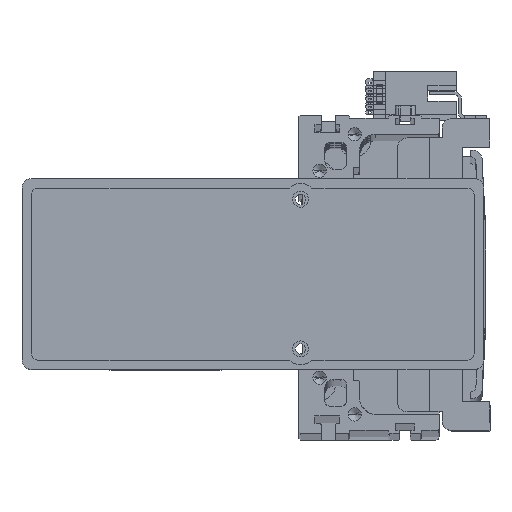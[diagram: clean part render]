
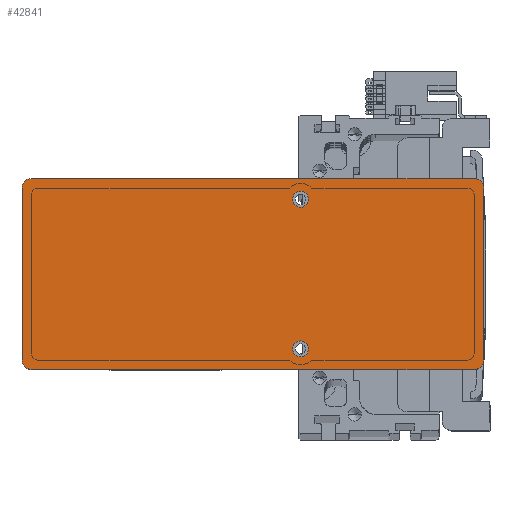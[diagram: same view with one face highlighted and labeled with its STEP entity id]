
A CAD part, top view. The second image highlights one B-rep face of the part: STEP entity #42841.
In plain terms, the highlighted planar face has unit normal (0, 0, 1) as drawn and (0, 0, -1) by its records, which use the part's own axes.
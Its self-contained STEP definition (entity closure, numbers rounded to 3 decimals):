
#13 = DIRECTION ( 'NONE',  ( 0., -1., 0. ) ) ;
#189 = EDGE_LOOP ( 'NONE', ( #24872, #10020 ) ) ;
#477 = EDGE_CURVE ( 'NONE', #45343, #3958, #6821, .T. ) ;
#751 = DIRECTION ( 'NONE',  ( 1., 0., 0. ) ) ;
#887 = ORIENTED_EDGE ( 'NONE', *, *, #34944, .F. ) ;
#923 = ORIENTED_EDGE ( 'NONE', *, *, #477, .F. ) ;
#1333 = ORIENTED_EDGE ( 'NONE', *, *, #42347, .T. ) ;
#1970 = AXIS2_PLACEMENT_3D ( 'NONE', #46356, #23648, #751 ) ;
#2892 = DIRECTION ( 'NONE',  ( 0., 0., 1. ) ) ;
#3448 = DIRECTION ( 'NONE',  ( 0., 0., -1. ) ) ;
#3457 = FACE_OUTER_BOUND ( 'NONE', #38429, .T. ) ;
#3958 = VERTEX_POINT ( 'NONE', #41152 ) ;
#4212 = AXIS2_PLACEMENT_3D ( 'NONE', #25742, #2892, #29574 ) ;
#4426 = CIRCLE ( 'NONE', #46226, 3. ) ;
#5643 = EDGE_CURVE ( 'NONE', #43824, #3958, #48834, .T. ) ;
#5980 = ORIENTED_EDGE ( 'NONE', *, *, #27168, .T. ) ;
#6030 = CARTESIAN_POINT ( 'NONE',  ( 69.5, -27., 0. ) ) ;
#6243 = CARTESIAN_POINT ( 'NONE',  ( 15., 23.5, 0. ) ) ;
#6821 = LINE ( 'NONE', #31599, #35960 ) ;
#6889 = EDGE_LOOP ( 'NONE', ( #19882, #887 ) ) ;
#7079 = DIRECTION ( 'NONE',  ( 0., 0., -1. ) ) ;
#7229 = DIRECTION ( 'NONE',  ( -1., 0., 0. ) ) ;
#7372 = CIRCLE ( 'NONE', #49309, 2.5 ) ;
#7458 = VERTEX_POINT ( 'NONE', #22961 ) ;
#7784 = CARTESIAN_POINT ( 'NONE',  ( 17.5, 23.5, 0. ) ) ;
#8562 = VERTEX_POINT ( 'NONE', #11419 ) ;
#9778 = CARTESIAN_POINT ( 'NONE',  ( 15., -23.5, 0. ) ) ;
#9932 = DIRECTION ( 'NONE',  ( 1., 0., 0. ) ) ;
#10020 = ORIENTED_EDGE ( 'NONE', *, *, #47422, .F. ) ;
#10136 = DIRECTION ( 'NONE',  ( -1., 0., 0. ) ) ;
#10147 = CIRCLE ( 'NONE', #40424, 2.5 ) ;
#11186 = VECTOR ( 'NONE', #13, 1000. ) ;
#11419 = CARTESIAN_POINT ( 'NONE',  ( 69.5, 30., 0. ) ) ;
#11616 = VECTOR ( 'NONE', #44430, 1000. ) ;
#11813 = ORIENTED_EDGE ( 'NONE', *, *, #22130, .F. ) ;
#12173 = CARTESIAN_POINT ( 'NONE',  ( -69.5, 30., 0. ) ) ;
#12818 = DIRECTION ( 'NONE',  ( 0., 0., -1. ) ) ;
#12848 = VERTEX_POINT ( 'NONE', #29405 ) ;
#13588 = CARTESIAN_POINT ( 'NONE',  ( 72.5, -27., 0. ) ) ;
#13602 = DIRECTION ( 'NONE',  ( -1., 0., 0. ) ) ;
#14068 = CARTESIAN_POINT ( 'NONE',  ( 72.5, -30., 0. ) ) ;
#14724 = VERTEX_POINT ( 'NONE', #12173 ) ;
#15569 = EDGE_CURVE ( 'NONE', #8562, #14724, #18879, .T. ) ;
#16334 = CARTESIAN_POINT ( 'NONE',  ( 15., -23.5, 0. ) ) ;
#16935 = AXIS2_PLACEMENT_3D ( 'NONE', #29865, #7079, #33664 ) ;
#17690 = VECTOR ( 'NONE', #7229, 1000. ) ;
#18035 = ORIENTED_EDGE ( 'NONE', *, *, #15569, .F. ) ;
#18879 = LINE ( 'NONE', #30010, #17690 ) ;
#19356 = CARTESIAN_POINT ( 'NONE',  ( -72.5, -27., 0. ) ) ;
#19879 = CARTESIAN_POINT ( 'NONE',  ( -69.5, -30., 0. ) ) ;
#19882 = ORIENTED_EDGE ( 'NONE', *, *, #31020, .F. ) ;
#20160 = DIRECTION ( 'NONE',  ( -1., 0., 0. ) ) ;
#20811 = AXIS2_PLACEMENT_3D ( 'NONE', #26278, #3448, #30108 ) ;
#20901 = CIRCLE ( 'NONE', #20811, 3. ) ;
#20938 = EDGE_CURVE ( 'NONE', #46207, #45638, #7372, .T. ) ;
#22130 = EDGE_CURVE ( 'NONE', #12848, #45673, #31357, .T. ) ;
#22961 = CARTESIAN_POINT ( 'NONE',  ( 12.5, 23.5, 0. ) ) ;
#23001 = CARTESIAN_POINT ( 'NONE',  ( 17.5, -23.5, 0. ) ) ;
#23648 = DIRECTION ( 'NONE',  ( 0., 0., -1. ) ) ;
#23742 = FACE_BOUND ( 'NONE', #189, .T. ) ;
#24139 = CARTESIAN_POINT ( 'NONE',  ( 12.5, -23.5, 0. ) ) ;
#24568 = VERTEX_POINT ( 'NONE', #30999 ) ;
#24872 = ORIENTED_EDGE ( 'NONE', *, *, #20938, .F. ) ;
#25742 = CARTESIAN_POINT ( 'NONE',  ( 0., 0., 0. ) ) ;
#25821 = EDGE_CURVE ( 'NONE', #8562, #24568, #4426, .T. ) ;
#26149 = VERTEX_POINT ( 'NONE', #7784 ) ;
#26278 = CARTESIAN_POINT ( 'NONE',  ( -69.5, -27., 0. ) ) ;
#27168 = EDGE_CURVE ( 'NONE', #12848, #14724, #44612, .T. ) ;
#27678 = AXIS2_PLACEMENT_3D ( 'NONE', #9778, #36309, #13602 ) ;
#28829 = DIRECTION ( 'NONE',  ( 1., 0., 0. ) ) ;
#29405 = CARTESIAN_POINT ( 'NONE',  ( -72.5, 27., 0. ) ) ;
#29574 = DIRECTION ( 'NONE',  ( 1., 0., 0. ) ) ;
#29865 = CARTESIAN_POINT ( 'NONE',  ( 15., 23.5, 0. ) ) ;
#30010 = CARTESIAN_POINT ( 'NONE',  ( 72.5, 30., 0. ) ) ;
#30108 = DIRECTION ( 'NONE',  ( 1., 0., 0. ) ) ;
#30999 = CARTESIAN_POINT ( 'NONE',  ( 72.5, 27., 0. ) ) ;
#31020 = EDGE_CURVE ( 'NONE', #7458, #26149, #45409, .T. ) ;
#31357 = LINE ( 'NONE', #45608, #11186 ) ;
#31599 = CARTESIAN_POINT ( 'NONE',  ( 72.5, -30., 0. ) ) ;
#31767 = LINE ( 'NONE', #14068, #11616 ) ;
#32634 = DIRECTION ( 'NONE',  ( 0., 0., -1. ) ) ;
#32834 = DIRECTION ( 'NONE',  ( 0., 0., -1. ) ) ;
#33664 = DIRECTION ( 'NONE',  ( -1., 0., 0. ) ) ;
#34944 = EDGE_CURVE ( 'NONE', #26149, #7458, #10147, .T. ) ;
#35556 = CARTESIAN_POINT ( 'NONE',  ( 69.5, 27., 0. ) ) ;
#35960 = VECTOR ( 'NONE', #28829, 1000. ) ;
#36309 = DIRECTION ( 'NONE',  ( 0., 0., -1. ) ) ;
#36664 = CIRCLE ( 'NONE', #27678, 2.5 ) ;
#38429 = EDGE_LOOP ( 'NONE', ( #39893, #44771, #923, #1333, #11813, #5980, #18035, #42986 ) ) ;
#39400 = DIRECTION ( 'NONE',  ( 1., 0., 0. ) ) ;
#39893 = ORIENTED_EDGE ( 'NONE', *, *, #40180, .F. ) ;
#40180 = EDGE_CURVE ( 'NONE', #43824, #24568, #31767, .T. ) ;
#40424 = AXIS2_PLACEMENT_3D ( 'NONE', #6243, #32834, #10136 ) ;
#41152 = CARTESIAN_POINT ( 'NONE',  ( 69.5, -30., 0. ) ) ;
#42347 = EDGE_CURVE ( 'NONE', #45343, #45673, #20901, .T. ) ;
#42744 = FACE_BOUND ( 'NONE', #6889, .T. ) ;
#42841 = ADVANCED_FACE ( 'NONE', ( #42744, #23742, #3457 ), #44501, .F. ) ;
#42881 = DIRECTION ( 'NONE',  ( 0., 0., -1. ) ) ;
#42986 = ORIENTED_EDGE ( 'NONE', *, *, #25821, .T. ) ;
#43739 = AXIS2_PLACEMENT_3D ( 'NONE', #6030, #32634, #9932 ) ;
#43824 = VERTEX_POINT ( 'NONE', #13588 ) ;
#44430 = DIRECTION ( 'NONE',  ( 0., 1., 0. ) ) ;
#44501 = PLANE ( 'NONE',  #4212 ) ;
#44612 = CIRCLE ( 'NONE', #1970, 3. ) ;
#44771 = ORIENTED_EDGE ( 'NONE', *, *, #5643, .T. ) ;
#45343 = VERTEX_POINT ( 'NONE', #19879 ) ;
#45409 = CIRCLE ( 'NONE', #16935, 2.5 ) ;
#45608 = CARTESIAN_POINT ( 'NONE',  ( -72.5, -30., 0. ) ) ;
#45638 = VERTEX_POINT ( 'NONE', #23001 ) ;
#45673 = VERTEX_POINT ( 'NONE', #19356 ) ;
#46207 = VERTEX_POINT ( 'NONE', #24139 ) ;
#46226 = AXIS2_PLACEMENT_3D ( 'NONE', #35556, #12818, #39400 ) ;
#46356 = CARTESIAN_POINT ( 'NONE',  ( -69.5, 27., 0. ) ) ;
#47422 = EDGE_CURVE ( 'NONE', #45638, #46207, #36664, .T. ) ;
#48834 = CIRCLE ( 'NONE', #43739, 3. ) ;
#49309 = AXIS2_PLACEMENT_3D ( 'NONE', #16334, #42881, #20160 ) ;
